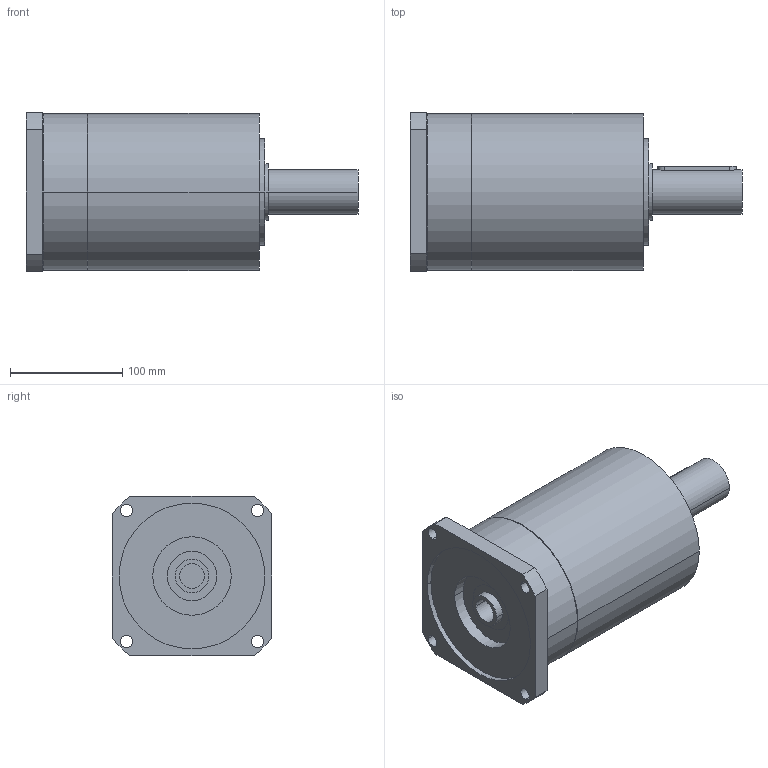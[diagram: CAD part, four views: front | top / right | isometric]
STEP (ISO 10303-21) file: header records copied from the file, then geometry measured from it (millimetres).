
FILE_DESCRIPTION(('CoCreate Modeling STEP Export'),'2;1');
FILE_NAME('GPR150_ig-9-12-16-20-28-35_40_B14_22_P05.stp','2014-08-26T15:30:35',(''),(''),'CoCreate Modeling STEP processor for AP214 (Solid Model)','CoCreate Modeling 16.00C 25-Feb-2009 (C) Parametric Technology GmbH','');
FILE_SCHEMA(('AUTOMOTIVE_DESIGN { 1 0 10303 214 1 1 1 1 }'));
Length unit declared in the file: millimetre
Products named in the file (2): GPR150_ig-9-12-16-20-28-35_40_B14_22_P05
Assembly tree (1 placements, depth 2):
  GPR150_ig-9-12-16-20-28-35_40_B14_22_P05
    GPR150_ig-9-12-16-20-28-35_40_B14_22_P05
Bounding box: 296 x 142 x 142 mm (x, y, z)
Volume: 3276200 mm3; surface area: 160169 mm2
Topology: 1 solids, 1 shells, 73 faces, 193 edges, 135 vertices
Faces by surface type: cylinder 44, plane 23, cone 6
Entity records: 2028 total; most frequent: CARTESIAN_POINT 394, ORIENTED_EDGE 382, DIRECTION 274, EDGE_CURVE 191, VERTEX_POINT 135, AXIS2_PLACEMENT_3D 103, EDGE_LOOP 96, FACE_OUTER_BOUND 73
